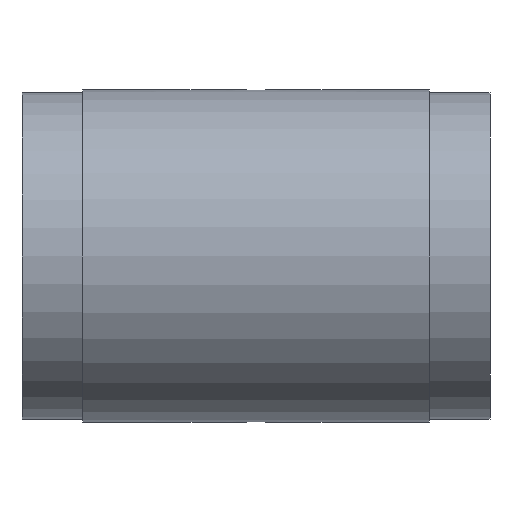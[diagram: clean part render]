
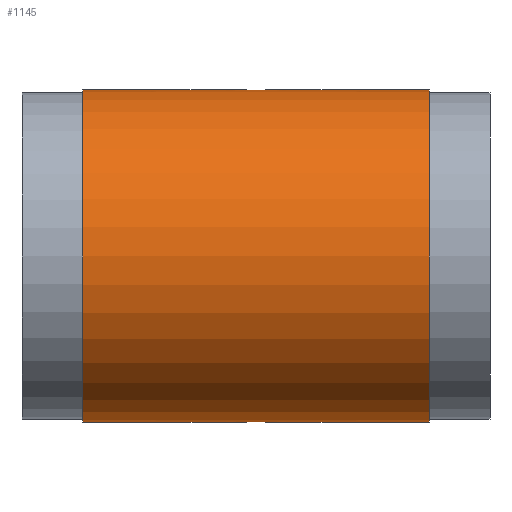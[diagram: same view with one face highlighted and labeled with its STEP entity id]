
A CAD part, front view. The second image highlights one B-rep face of the part: STEP entity #1145.
In plain terms, the highlighted cylindrical face has radius 11.5 mm (diameter 23 mm), a full revolution.
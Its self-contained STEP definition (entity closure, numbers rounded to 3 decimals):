
#18=B_SPLINE_CURVE_WITH_KNOTS('',3,(#1918,#1919,#1920,#1921,#1922,#1923,
#1924),.UNSPECIFIED.,.F.,.F.,(4,1,1,1,4),(0.,0.001,0.002,
0.004,0.005),.UNSPECIFIED.);
#19=B_SPLINE_CURVE_WITH_KNOTS('',3,(#1929,#1930,#1931,#1932,#1933,#1934,
#1935),.UNSPECIFIED.,.F.,.F.,(4,1,1,1,4),(0.,0.001,0.002,
0.004,0.005),.UNSPECIFIED.);
#20=B_SPLINE_CURVE_WITH_KNOTS('',3,(#1938,#1939,#1940,#1941,#1942,#1943,
#1944,#1945,#1946,#1947,#1948),.UNSPECIFIED.,.T.,.F.,(1,1,1,1,1,1,1,1,1,
1,1,1,1,1,1),(-0.002,-0.001,-0.001,
0.,0.001,0.001,0.002,0.002,
0.003,0.004,0.004,0.005,
0.005,0.006,0.006),
 .UNSPECIFIED.);
#21=B_SPLINE_CURVE_WITH_KNOTS('',3,(#1950,#1951,#1952,#1953,#1954,#1955,
#1956,#1957,#1958,#1959,#1960),.UNSPECIFIED.,.T.,.F.,(1,1,1,1,1,1,1,1,1,
1,1,1,1,1,1),(-0.002,-0.001,-0.001,
0.,0.001,0.001,0.002,0.002,
0.003,0.004,0.004,0.005,
0.005,0.006,0.006),
 .UNSPECIFIED.);
#109=LINE('',#1927,#197);
#110=LINE('',#1937,#198);
#197=VECTOR('',#1560,1000.);
#198=VECTOR('',#1561,1000.);
#410=ORIENTED_EDGE('',*,*,#668,.F.);
#411=ORIENTED_EDGE('',*,*,#669,.T.);
#412=ORIENTED_EDGE('',*,*,#670,.T.);
#413=ORIENTED_EDGE('',*,*,#671,.T.);
#414=ORIENTED_EDGE('',*,*,#672,.T.);
#415=ORIENTED_EDGE('',*,*,#673,.T.);
#416=ORIENTED_EDGE('',*,*,#674,.T.);
#417=ORIENTED_EDGE('',*,*,#667,.T.);
#667=EDGE_CURVE('',#809,#809,#899,.T.);
#668=EDGE_CURVE('',#810,#810,#900,.T.);
#669=EDGE_CURVE('',#811,#812,#18,.T.);
#670=EDGE_CURVE('',#812,#813,#109,.T.);
#671=EDGE_CURVE('',#813,#814,#19,.T.);
#672=EDGE_CURVE('',#814,#811,#110,.F.);
#673=EDGE_CURVE('',#815,#815,#20,.T.);
#674=EDGE_CURVE('',#816,#816,#21,.T.);
#809=VERTEX_POINT('',#1914);
#810=VERTEX_POINT('',#1917);
#811=VERTEX_POINT('',#1925);
#812=VERTEX_POINT('',#1926);
#813=VERTEX_POINT('',#1928);
#814=VERTEX_POINT('',#1936);
#815=VERTEX_POINT('',#1949);
#816=VERTEX_POINT('',#1961);
#899=CIRCLE('',#1286,11.5);
#900=CIRCLE('',#1288,11.5);
#953=EDGE_LOOP('',(#410));
#954=EDGE_LOOP('',(#411,#412,#413,#414));
#955=EDGE_LOOP('',(#415));
#956=EDGE_LOOP('',(#416));
#957=EDGE_LOOP('',(#417));
#1031=FACE_BOUND('',#953,.T.);
#1032=FACE_BOUND('',#954,.T.);
#1033=FACE_BOUND('',#955,.T.);
#1034=FACE_BOUND('',#956,.T.);
#1035=FACE_BOUND('',#957,.T.);
#1094=CYLINDRICAL_SURFACE('',#1287,11.5);
#1145=ADVANCED_FACE('',(#1031,#1032,#1033,#1034,#1035),#1094,.T.);
#1286=AXIS2_PLACEMENT_3D('',#1913,#1554,#1555);
#1287=AXIS2_PLACEMENT_3D('',#1915,#1556,#1557);
#1288=AXIS2_PLACEMENT_3D('',#1916,#1558,#1559);
#1554=DIRECTION('',(1.,0.,0.));
#1555=DIRECTION('',(0.,0.,-1.));
#1556=DIRECTION('',(1.,0.,0.));
#1557=DIRECTION('',(0.,0.,-1.));
#1558=DIRECTION('',(1.,0.,0.));
#1559=DIRECTION('',(0.,0.,-1.));
#1560=DIRECTION('',(1.,0.,0.));
#1561=DIRECTION('',(1.,0.,0.));
#1913=CARTESIAN_POINT('',(-12.,0.,0.));
#1914=CARTESIAN_POINT('',(-12.,0.,-11.5));
#1915=CARTESIAN_POINT('',(16.2,0.,0.));
#1916=CARTESIAN_POINT('',(12.,0.,0.));
#1917=CARTESIAN_POINT('',(12.,0.,-11.5));
#1918=CARTESIAN_POINT('',(-6.,11.402,1.5));
#1919=CARTESIAN_POINT('',(-6.397,11.402,1.5));
#1920=CARTESIAN_POINT('',(-7.173,11.451,1.175));
#1921=CARTESIAN_POINT('',(-7.663,11.524,0.002));
#1922=CARTESIAN_POINT('',(-7.174,11.451,-1.175));
#1923=CARTESIAN_POINT('',(-6.397,11.402,-1.5));
#1924=CARTESIAN_POINT('',(-6.,11.402,-1.5));
#1925=CARTESIAN_POINT('',(-6.,11.402,1.5));
#1926=CARTESIAN_POINT('',(-6.,11.402,-1.5));
#1927=CARTESIAN_POINT('',(16.2,11.402,-1.5));
#1928=CARTESIAN_POINT('',(6.,11.402,-1.5));
#1929=CARTESIAN_POINT('',(6.,11.402,-1.5));
#1930=CARTESIAN_POINT('',(6.397,11.402,-1.5));
#1931=CARTESIAN_POINT('',(7.173,11.451,-1.175));
#1932=CARTESIAN_POINT('',(7.663,11.524,-0.002));
#1933=CARTESIAN_POINT('',(7.174,11.451,1.175));
#1934=CARTESIAN_POINT('',(6.397,11.402,1.5));
#1935=CARTESIAN_POINT('',(6.,11.402,1.5));
#1936=CARTESIAN_POINT('',(6.,11.402,1.5));
#1937=CARTESIAN_POINT('',(16.2,11.402,1.5));
#1938=CARTESIAN_POINT('',(0.587,-0.588,-11.488));
#1939=CARTESIAN_POINT('',(0.831,0.,-11.506));
#1940=CARTESIAN_POINT('',(0.587,0.588,-11.488));
#1941=CARTESIAN_POINT('',(0.001,0.831,-11.469));
#1942=CARTESIAN_POINT('',(-0.588,0.588,-11.488));
#1943=CARTESIAN_POINT('',(-0.831,0.,-11.506));
#1944=CARTESIAN_POINT('',(-0.588,-0.587,-11.488));
#1945=CARTESIAN_POINT('',(-0.001,-0.831,-11.469));
#1946=CARTESIAN_POINT('',(0.587,-0.588,-11.488));
#1947=CARTESIAN_POINT('',(0.831,0.,-11.506));
#1948=CARTESIAN_POINT('',(0.587,0.588,-11.488));
#1949=CARTESIAN_POINT('',(0.75,0.,-11.5));
#1950=CARTESIAN_POINT('',(0.587,0.588,11.488));
#1951=CARTESIAN_POINT('',(0.831,0.,11.506));
#1952=CARTESIAN_POINT('',(0.587,-0.588,11.488));
#1953=CARTESIAN_POINT('',(0.001,-0.831,11.469));
#1954=CARTESIAN_POINT('',(-0.588,-0.588,11.488));
#1955=CARTESIAN_POINT('',(-0.831,0.,11.506));
#1956=CARTESIAN_POINT('',(-0.588,0.587,11.488));
#1957=CARTESIAN_POINT('',(-0.001,0.831,11.469));
#1958=CARTESIAN_POINT('',(0.587,0.588,11.488));
#1959=CARTESIAN_POINT('',(0.831,0.,11.506));
#1960=CARTESIAN_POINT('',(0.587,-0.588,11.488));
#1961=CARTESIAN_POINT('',(0.75,0.,11.5));
